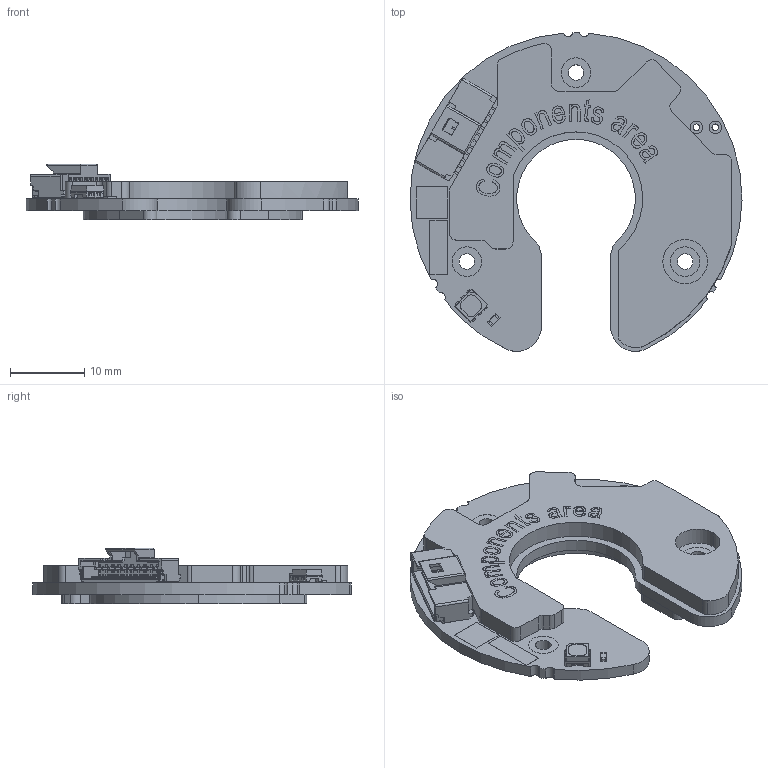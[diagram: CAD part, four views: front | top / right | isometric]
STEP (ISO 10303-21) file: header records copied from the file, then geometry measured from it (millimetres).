
FILE_DESCRIPTION (( 'STEP AP214' ), '1' );
FILE_NAME ('BR10_konektor_UVW.STEP', '2024-02-23T10:53:32', ( '' ), ( '' ), 'SwSTEP 2.0', 'SolidWorks 2022', '' );
FILE_SCHEMA (( 'AUTOMOTIVE_DESIGN' ));
Length unit declared in the file: millimetre
Products named in the file (1): BR10_konektor_UVW
Bounding box: 44.8 x 43.01 x 7.54 mm (x, y, z)
Volume: 4009.7 mm3; surface area: 4085.2 mm2
Topology: 5 solids, 5 shells, 1774 faces, 4792 edges, 3086 vertices
Faces by surface type: plane 1159, cylinder 267, bspline 256, cone 92
Entity records: 87120 total; most frequent: CARTESIAN_POINT 24251, ORIENTED_EDGE 9582, DIRECTION 7938, EDGE_CURVE 4791, VECTOR 3648, LINE 3648, VERTEX_POINT 3086, AXIS2_PLACEMENT_3D 2145
